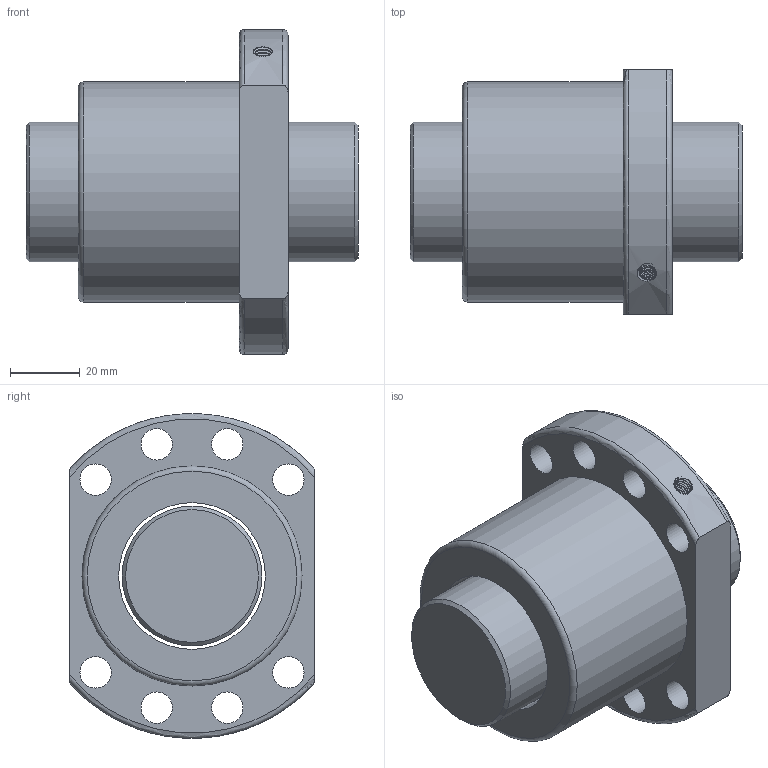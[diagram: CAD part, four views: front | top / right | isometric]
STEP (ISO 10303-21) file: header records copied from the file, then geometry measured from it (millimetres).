
FILE_DESCRIPTION(/* description */ ('Unknown','CAx-IF Rec.Pracs.---Representation and Presentation of Product Manufacturing Information (PMI)---4.0---2014-10-13','CAx-IF Rec.Pracs.---3D Tessellated Geometry---0.4---2014-09-14','2;1'),/* implementation_level */ '2;1');
FILE_NAME(/* name */ 'SFU04006',/* time_stamp */ '2020-12-07T16:53:02+08:00',/* author */ ('Unknown'),/* organization */ ('Unknown'),/* preprocessor_version */ 'ST-DEVELOPER v16.7',/* originating_system */ 'Solid Edge',/* authorisation */ 'Unknown');
FILE_SCHEMA (('AP242_MANAGED_MODEL_BASED_3D_ENGINEERING_MIM_LF { 1 0 10303 442 1 1 4 }'));
Length unit declared in the file: millimetre
Products named in the file (1): SFU04006
Bounding box: 95 x 70 x 93 mm (x, y, z)
Volume: 253337.8 mm3; surface area: 46364.7 mm2
Topology: 2 solids, 2 shells, 34 faces, 89 edges, 60 vertices
Faces by surface type: cylinder 16, plane 8, torus 5, cone 3, bspline 2
Full cylindrical faces by diameter (mm): 4 x1, 9 x8, 40 x1, 42 x1, 63 x1
Entity records: 3644 total; most frequent: CARTESIAN_POINT 2822, DIRECTION 154, ORIENTED_EDGE 128, AXIS2_PLACEMENT_3D 74, EDGE_LOOP 71, FACE_BOUND 71, EDGE_CURVE 64, VERTEX_POINT 51
